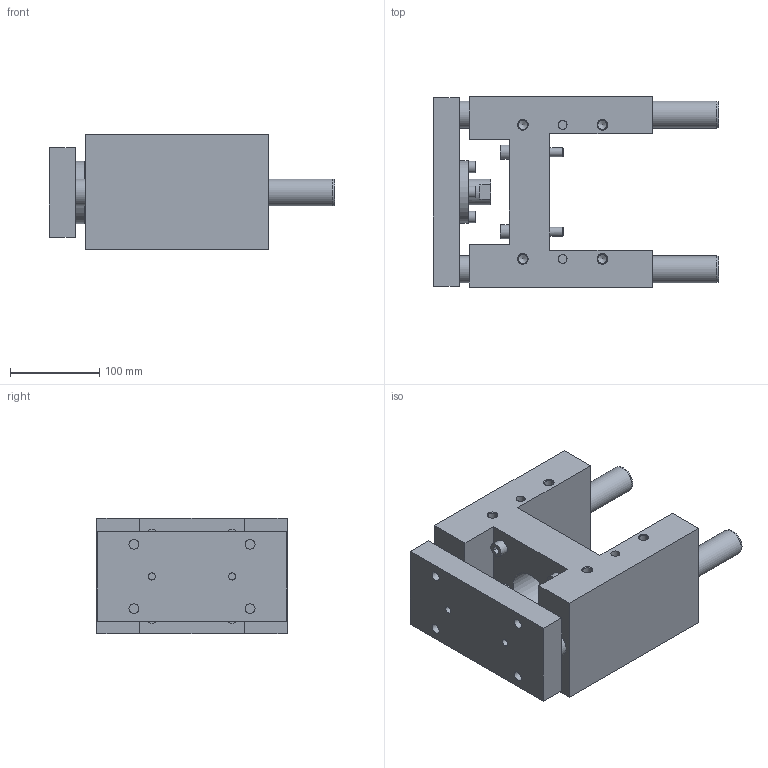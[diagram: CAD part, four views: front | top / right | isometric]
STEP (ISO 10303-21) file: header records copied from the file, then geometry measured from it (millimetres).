
FILE_DESCRIPTION( ( 'STEP AP214' ), '1' );
FILE_NAME( 'U:/Etudes/Top Solid/BIBLIO 3D AVM/TOP/PNEUMATIQUE/GUIDAGES/Type 32 (en H)/R_Renforcée/329R1130.step', '2005-05-27T09:18:28', ( ' ' ), ( ' ' ), 'XStep 1.0', ' ', ' ' );
FILE_SCHEMA( ( 'automotive_design' ) );
Length unit declared in the file: metre
Products named in the file (2): 1; 2
Bounding box: 319 x 213 x 129 mm (x, y, z)
Volume: 3665520.9 mm3; surface area: 391005.5 mm2
Topology: 2 solids, 7 shells, 207 faces, 460 edges, 303 vertices
Faces by surface type: plane 118, cylinder 68, cone 21
Full cylindrical faces by diameter (mm): 8 x10, 8.5 x4, 10 x10, 10.106 x12, 11 x8, 13 x4, 16 x4, 18 x4, 18.376 x2, 29 x1, 30 x4, 32 x1, 42 x1, 45 x1, 55 x1, 70 x1
Entity records: 6989 total; most frequent: CARTESIAN_POINT 1089, DIRECTION 880, ORIENTED_EDGE 678, EDGE_LOOP 360, AXIS2_PLACEMENT_3D 340, EDGE_CURVE 339, VERTEX_POINT 277, FACE_OUTER_BOUND 275
